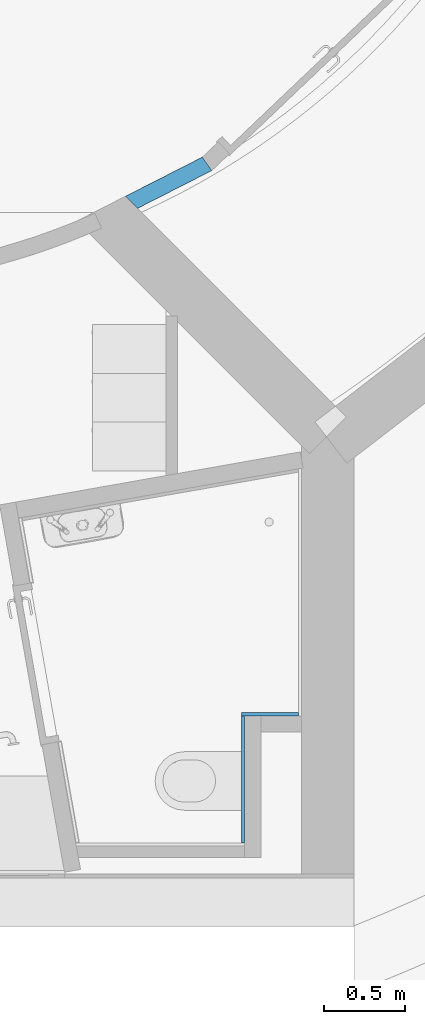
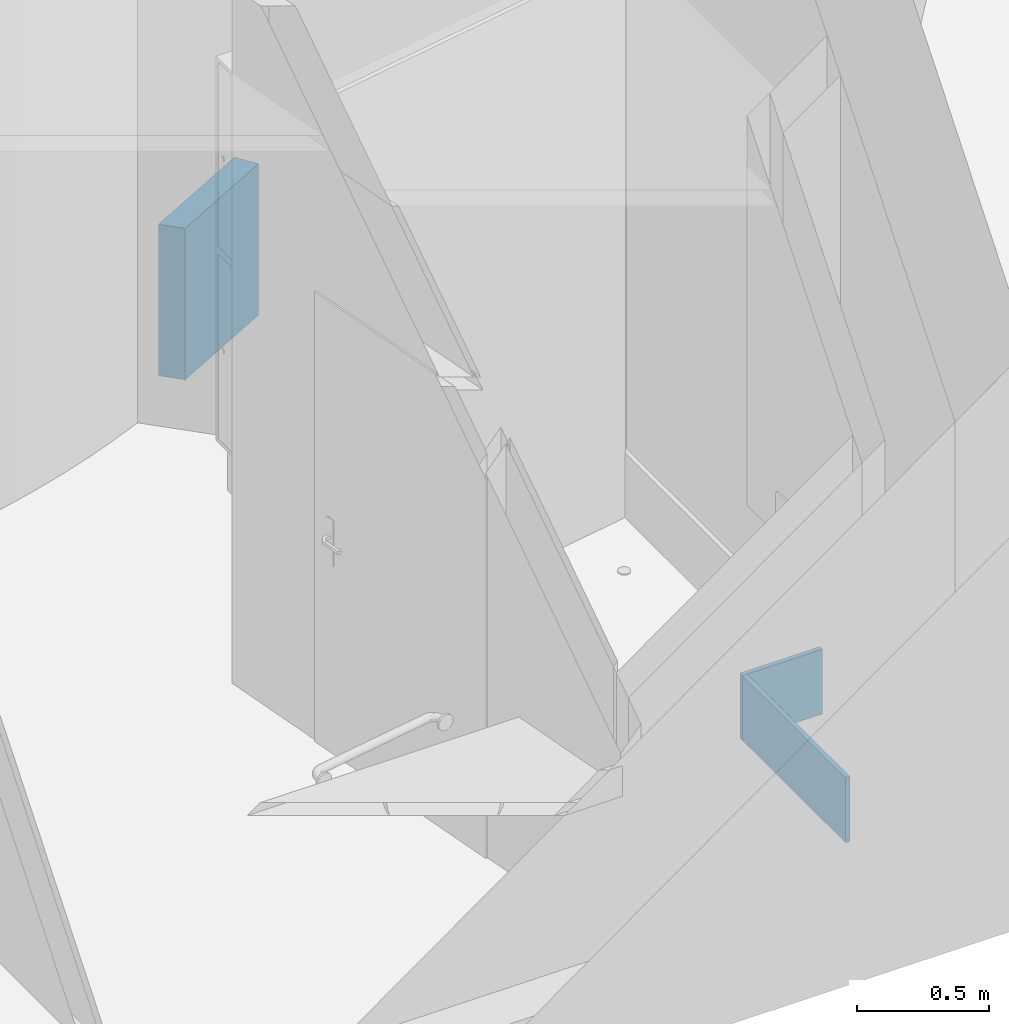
# One storey, part 67 of 137: 3 walls.
"""IFC2X3 building model written with IfcOpenShell, lengths in centimetres."""

from ifc_helpers import new_model, entity, si_unit, converted_unit, derived_unit, direction, frame, frame_2d, origin, place, context, subcontext, project, spatial, polyline, rectangle, outline, extrude, material, layer, layer_set, layer_usage, type_object, element, save


model = new_model("IFC2X3")

# Units and contexts
model_context = context("Model", 3, precision=0.001, world=origin(), true_north=direction((6.12303176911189e-17, 1.0)))
body_context = subcontext(model_context, "Body", "Model", "MODEL_VIEW")
ifc_project = project(units=[si_unit("LENGTHUNIT", "METRE", prefix="CENTI"), si_unit("AREAUNIT", "SQUARE_METRE"), si_unit("VOLUMEUNIT", "CUBIC_METRE"), converted_unit("PLANEANGLEUNIT", "DEGREE", entity("IfcRatioMeasure", 0.0174532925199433), si_unit("PLANEANGLEUNIT", "RADIAN"), dimensions=[0, 0, 0, 0, 0, 0, 0]), si_unit("MASSUNIT", "GRAM", prefix="KILO"), si_unit("TIMEUNIT", "SECOND"), si_unit("FREQUENCYUNIT", "HERTZ"), si_unit("THERMODYNAMICTEMPERATUREUNIT", "DEGREE_CELSIUS"), derived_unit("THERMALTRANSMITTANCEUNIT", [(si_unit("MASSUNIT", "GRAM", prefix="KILO"), 1), (si_unit("THERMODYNAMICTEMPERATUREUNIT", "KELVIN"), -1), (si_unit("TIMEUNIT", "SECOND"), -3)]), derived_unit("VOLUMETRICFLOWRATEUNIT", [(si_unit("LENGTHUNIT", "METRE"), 3), (si_unit("TIMEUNIT", "SECOND"), -1)]), si_unit("ELECTRICCURRENTUNIT", "AMPERE"), si_unit("ELECTRICVOLTAGEUNIT", "VOLT"), si_unit("POWERUNIT", "WATT"), si_unit("FORCEUNIT", "NEWTON", prefix="KILO"), si_unit("ILLUMINANCEUNIT", "LUX"), si_unit("LUMINOUSFLUXUNIT", "LUMEN"), si_unit("LUMINOUSINTENSITYUNIT", "CANDELA"), derived_unit("USERDEFINED", [(si_unit("MASSUNIT", "GRAM", prefix="KILO"), -1), (si_unit("LENGTHUNIT", "METRE"), -2), (si_unit("TIMEUNIT", "SECOND"), 3), (si_unit("LUMINOUSFLUXUNIT", "LUMEN"), 1)]), derived_unit("LINEARVELOCITYUNIT", [(si_unit("LENGTHUNIT", "METRE"), 1), (si_unit("TIMEUNIT", "SECOND"), -1)]), si_unit("PRESSUREUNIT", "PASCAL"), derived_unit("USERDEFINED", [(si_unit("LENGTHUNIT", "METRE"), -2), (si_unit("MASSUNIT", "GRAM", prefix="KILO"), 1), (si_unit("TIMEUNIT", "SECOND"), -2)])], contexts=[model_context])

# Site, building, storey
site_placement = place(None, frame((8.62739174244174, -249.285249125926, 0.0)))
site = spatial("IfcSite", under=ifc_project, at=site_placement, Name="Default", CompositionType="ELEMENT")
building_placement = place(site_placement, origin())
building = spatial("IfcBuilding", under=site, at=building_placement, CompositionType="ELEMENT")
storey_placement = place(building_placement, origin())
storey = spatial("IfcBuildingStorey", under=building, at=storey_placement, Name="RDC", CompositionType="ELEMENT", Elevation=-8.82465566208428e-11)

# Walls
ifc_material_1 = material(Name="Plâtre")
ifc_layer_1 = layer(ifc_material_1, 10.0)
ifc_layer_set_1 = layer_set([ifc_layer_1], Name="Mur de base:Int. plâtre 100 mm")
ifc_layer_usage_1 = layer_usage(ifc_layer_set_1, "AXIS2", "NEGATIVE", 5.0)
wall_type_1 = type_object("IfcWallType", Name="Mur de base:Int. plâtre 100 mm", PredefinedType="NOTDEFINED")
wall_1_placement = place(storey_placement, frame((3238.02431483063, 315.58636352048, 0.0), z_axis=(0.0, 0.0, 1.0), x_axis=(0.891006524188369, 0.453990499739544, 0.0)))
element("IfcWallStandardCase", 1, at=wall_1_placement, inside=storey, type_object=wall_type_1, material=ifc_layer_usage_1, Name="Mur de base:Int. plâtre 100 mm", ObjectType="Mur de base:Int. plâtre 100 mm", context=body_context, shape_type="SweptSolid", body=[
    extrude(outline(polyline([(54.3435332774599, -5.0), (52.8852966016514, 5.0), (0.0, 5.0), (3.24919696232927, -5.0), (54.3435332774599, -5.0)])), origin(), (0.0, 0.0, 1.0), 70.0),
])
ifc_material_2 = material(Name="MU_carrelage_mural")
ifc_layer_2 = layer(ifc_material_2, 2.0)
ifc_layer_set_2 = layer_set([ifc_layer_2], Name="Mur de base:CAR 2")
ifc_layer_usage_2 = layer_usage(ifc_layer_set_2, "AXIS2", "NEGATIVE", 1.0)
wall_type_2 = type_object("IfcWallType", Name="Mur de base:CAR 2", PredefinedType="STANDARD", material=ifc_layer_set_2)
wall_2_placement = place(storey_placement, frame((3341.90482781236, 1.98020807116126, 0.0), z_axis=(0.0, 0.0, 1.0), x_axis=(-1.0, 0.0, 0.0)))
element("IfcWallStandardCase", 2, at=wall_2_placement, inside=storey, type_object=wall_type_2, material=ifc_layer_usage_2, Name="Mur de base:CAR 2", ObjectType="Mur de base:CAR 2", context=body_context, shape_type="SweptSolid", body=[
    extrude(rectangle(XDim=35.0000000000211, YDim=2.0, at=frame_2d((17.5000000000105, 3.33066907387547e-16), x_axis=(-1.0, 0.0))), origin(), (0.0, 0.0, 1.0), 30.0000000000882),
])
ifc_layer_usage_3 = layer_usage(ifc_layer_set_2, "AXIS2", "NEGATIVE", 1.0)
wall_3_placement = place(storey_placement, frame((3307.90482781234, 0.98020807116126, 0.0), z_axis=(0.0, 0.0, 1.0), x_axis=(0.0, -1.0, 0.0)))
element("IfcWallStandardCase", 3, at=wall_3_placement, inside=storey, type_object=wall_type_2, material=ifc_layer_usage_3, Name="Mur de base:CAR 2", ObjectType="Mur de base:CAR 2", context=body_context, shape_type="SweptSolid", body=[
    extrude(rectangle(XDim=78.0, YDim=2.00000000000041, at=frame_2d((39.0, 0.0), x_axis=(-1.0, 0.0))), origin(), (0.0, 0.0, 1.0), 30.0000000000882),
])

save(model, "model.ifc")
